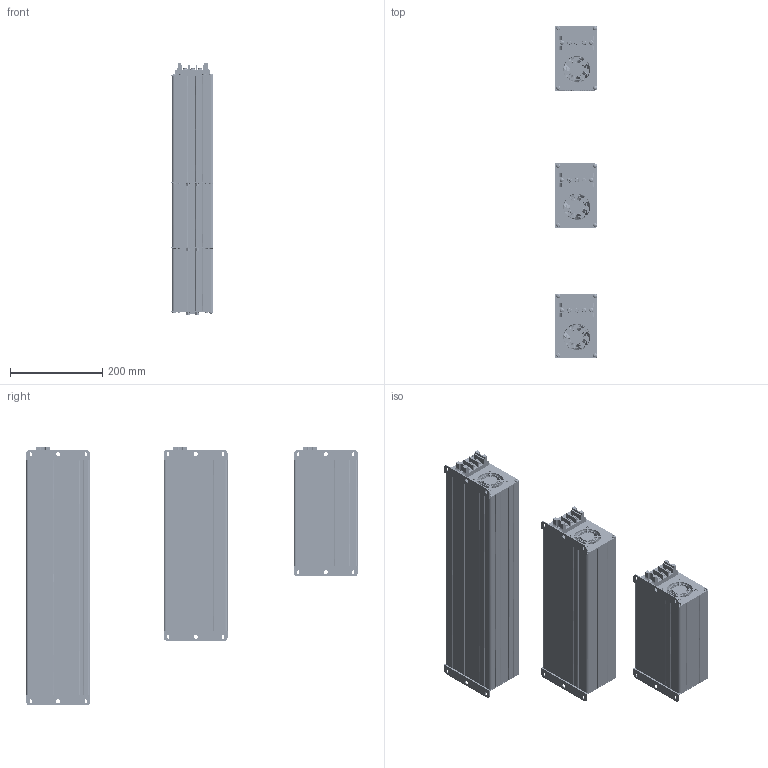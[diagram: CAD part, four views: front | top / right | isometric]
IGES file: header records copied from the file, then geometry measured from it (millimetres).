
Global section: file name: 20201021_CHCOM230,370,510; native system: Autodesk Inventor 2021; preprocessor: unknown; author: eunsol jang; date: 20201021.094551; units: inch
Bounding box: 93 x 719.45 x 561.5 mm (x, y, z)
Volume: 1777253.9 mm3; surface area: 1413945.3 mm2
Topology: 9 solids, 9 shells, 7842 faces, 24910 edges, 17912 vertices
Faces by surface type: bspline 7842
